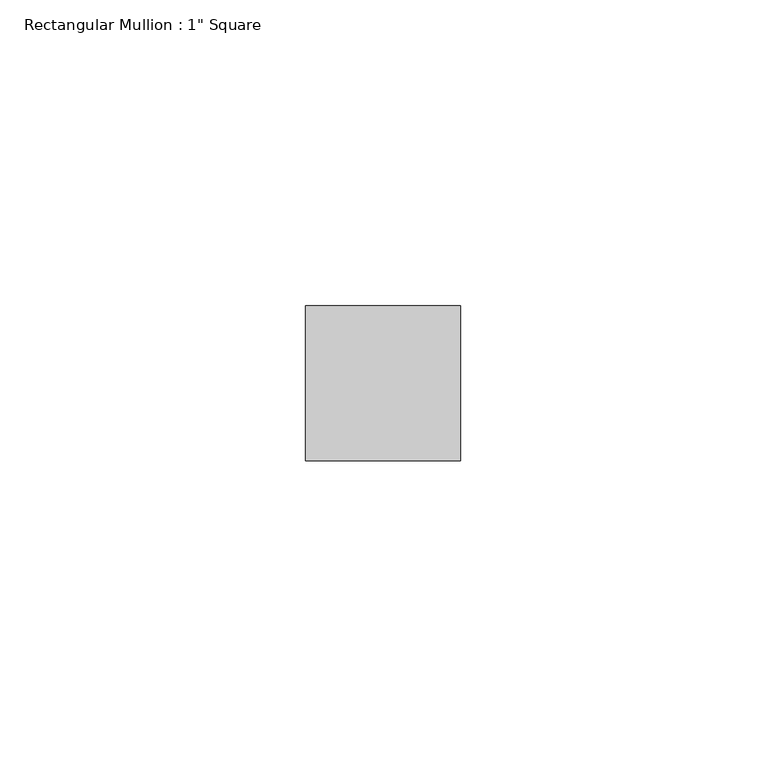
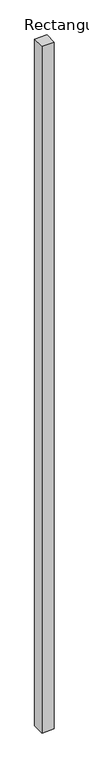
"""IFC4 building model written with IfcOpenShell, lengths in millimetres: member geometry."""

from ifc_helpers import new_model, si_unit, frame, origin, place, context, project, spatial, polyline, outline, extrude, source, transform, mapped, element, save


def member_e16e0e7d(model_context):
    return source(origin(), model_context, "Body", "SweptSolid", [
        extrude(outline(polyline([(0.0, 12.7), (0.0, -12.7), (-25.4, -12.7), (-25.4, 12.7), (0.0, 12.7)])), frame((0.0, 0.0, -1485.8999997), z_axis=(0.0, 0.0, 1.0), x_axis=(1.0, 0.0, 0.0)), (0.0, 0.0, 1.0), 1485.8999997),
    ])


if __name__ == "__main__":
    model = new_model("IFC4")
    model_context = context("Model", 3, world=origin())
    ifc_project = project(units=[si_unit("LENGTHUNIT", "METRE", prefix="MILLI")], contexts=[model_context])
    site = spatial("IfcSite", under=ifc_project)
    building = spatial("IfcBuilding", under=site)
    placement = place(None, origin())
    member_shape = member_e16e0e7d(model_context)
    element("IfcMember", 1, ObjectType="Rectangular Mullion : 1\" Square", at=placement, inside=building, context=model_context, shape_type="MappedRepresentation", body=[
        mapped(member_shape, transform((0.0, 0.0, 0.0), x_axis=(1.0, 0.0, 0.0), y_axis=(0.0, 1.0, 0.0), z_axis=(0.0, 0.0, 1.0))),
    ])
    save(model, "model.ifc")
